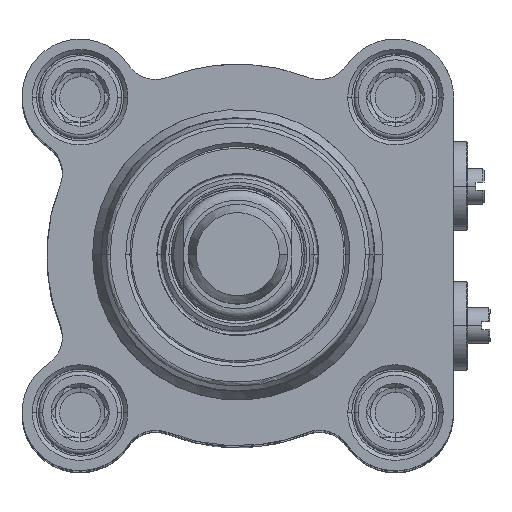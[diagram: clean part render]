
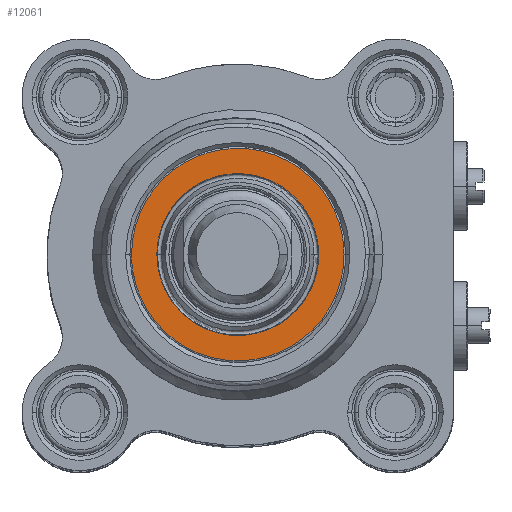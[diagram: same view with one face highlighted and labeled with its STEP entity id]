
A CAD part, top view. The second image highlights one B-rep face of the part: STEP entity #12061.
In plain terms, the highlighted planar face has unit normal (0, 0, 1).
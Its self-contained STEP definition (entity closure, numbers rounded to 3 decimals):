
#318 = CARTESIAN_POINT ( 'NONE',  ( -9.75, 0., 98.8 ) ) ;
#345 = CARTESIAN_POINT ( 'NONE',  ( 12.8, 0., 98.8 ) ) ;
#498 = CARTESIAN_POINT ( 'NONE',  ( -6.446, -11.184, 98.8 ) ) ;
#641 = CARTESIAN_POINT ( 'NONE',  ( -7.866, -10.236, 98.8 ) ) ;
#754 = CARTESIAN_POINT ( 'NONE',  ( 0., -12.8, 98.8 ) ) ;
#795 = CARTESIAN_POINT ( 'NONE',  ( 3.35, -12.467, 98.8 ) ) ;
#1059 = CARTESIAN_POINT ( 'NONE',  ( 12.8, 1.676, 98.8 ) ) ;
#1197 = CARTESIAN_POINT ( 'NONE',  ( 12.467, 3.35, 98.8 ) ) ;
#1348 = CARTESIAN_POINT ( 'NONE',  ( -12.467, 3.35, 98.8 ) ) ;
#1637 = CARTESIAN_POINT ( 'NONE',  ( 6.446, 11.184, 98.8 ) ) ;
#2171 = ORIENTED_EDGE ( 'NONE', *, *, #26730, .F. ) ;
#2415 = CARTESIAN_POINT ( 'NONE',  ( 9.496, -2.552, 98.8 ) ) ;
#2565 = CARTESIAN_POINT ( 'NONE',  ( -4.91, -8.519, 98.8 ) ) ;
#2607 = CARTESIAN_POINT ( 'NONE',  ( 5.992, 7.797, 98.8 ) ) ;
#2902 = CARTESIAN_POINT ( 'NONE',  ( -4.91, 8.519, 98.8 ) ) ;
#3165 = AXIS2_PLACEMENT_3D ( 'NONE', #754, #5701, #5547 ) ;
#3301 = B_SPLINE_CURVE_WITH_KNOTS ( 'NONE', 3,
 ( #25751, #14366, #5453, #4847, #5151, #2607, #20950, #9539, #18716, #14660, #23505, #2902, #16913, #12112, #21242, #23796, #28160, #21686 ),
 .UNSPECIFIED., .F., .F.,
 ( 4, 2, 2, 2, 2, 2, 2, 2, 4 ),
 ( 0.5, 0.563, 0.625, 0.688, 0.75, 0.813, 0.875, 0.938, 1. ),
 .UNSPECIFIED. ) ;
#3449 = CARTESIAN_POINT ( 'NONE',  ( -12.8, 1.676, 98.8 ) ) ;
#3455 = CARTESIAN_POINT ( 'NONE',  ( -12.8, 0., 98.8 ) ) ;
#3596 = CARTESIAN_POINT ( 'NONE',  ( -3.35, 12.467, 98.8 ) ) ;
#3854 = B_SPLINE_CURVE_WITH_KNOTS ( 'NONE', 3,
 ( #345, #23340, #25584, #6973, #7114, #14045, #23635, #795, #25439, #7564, #20787, #498, #641, #28148, #9526, #16753, #7413, #18700 ),
 .UNSPECIFIED., .F., .F.,
 ( 4, 2, 2, 2, 2, 2, 2, 2, 4 ),
 ( 0.5, 0.563, 0.625, 0.687, 0.75, 0.813, 0.875, 0.938, 1. ),
 .UNSPECIFIED. ) ;
#3954 = VERTEX_POINT ( 'NONE', #22420 ) ;
#4151 = EDGE_CURVE ( 'NONE', #14294, #3954, #21809, .T. ) ;
#4847 = CARTESIAN_POINT ( 'NONE',  ( 8.519, 4.91, 98.8 ) ) ;
#4954 = CARTESIAN_POINT ( 'NONE',  ( 1.276, -9.75, 98.8 ) ) ;
#5151 = CARTESIAN_POINT ( 'NONE',  ( 7.797, 5.992, 98.8 ) ) ;
#5261 = CARTESIAN_POINT ( 'NONE',  ( 2.552, -9.496, 98.8 ) ) ;
#5453 = CARTESIAN_POINT ( 'NONE',  ( 9.496, 2.552, 98.8 ) ) ;
#5547 = DIRECTION ( 'NONE',  ( 0., -1., 0. ) ) ;
#5701 = DIRECTION ( 'NONE',  ( 0., 0., -1. ) ) ;
#5713 = CARTESIAN_POINT ( 'NONE',  ( -11.184, 6.446, 98.8 ) ) ;
#6973 = CARTESIAN_POINT ( 'NONE',  ( 11.184, -6.446, 98.8 ) ) ;
#7114 = CARTESIAN_POINT ( 'NONE',  ( 10.236, -7.866, 98.8 ) ) ;
#7413 = CARTESIAN_POINT ( 'NONE',  ( -12.8, -1.676, 98.8 ) ) ;
#7564 = CARTESIAN_POINT ( 'NONE',  ( -1.676, -12.8, 98.8 ) ) ;
#7976 = CARTESIAN_POINT ( 'NONE',  ( 1.676, 12.8, 98.8 ) ) ;
#8123 = CARTESIAN_POINT ( 'NONE',  ( 12.8, 0., 98.8 ) ) ;
#8638 = FACE_OUTER_BOUND ( 'NONE', #15321, .T. ) ;
#9008 = ORIENTED_EDGE ( 'NONE', *, *, #23280, .F. ) ;
#9080 = PLANE ( 'NONE',  #3165 ) ;
#9253 = EDGE_LOOP ( 'NONE', ( #15366, #9008 ) ) ;
#9492 = CARTESIAN_POINT ( 'NONE',  ( -1.276, -9.75, 98.8 ) ) ;
#9526 = CARTESIAN_POINT ( 'NONE',  ( -11.184, -6.446, 98.8 ) ) ;
#9539 = CARTESIAN_POINT ( 'NONE',  ( 2.552, 9.496, 98.8 ) ) ;
#10665 = CARTESIAN_POINT ( 'NONE',  ( -10.236, 7.866, 98.8 ) ) ;
#11768 = CARTESIAN_POINT ( 'NONE',  ( -7.797, -5.992, 98.8 ) ) ;
#12061 = ADVANCED_FACE ( 'NONE', ( #8638, #17675 ), #9080, .F. ) ;
#12070 = CARTESIAN_POINT ( 'NONE',  ( -8.519, -4.91, 98.8 ) ) ;
#12112 = CARTESIAN_POINT ( 'NONE',  ( -7.797, 5.992, 98.8 ) ) ;
#12648 = CARTESIAN_POINT ( 'NONE',  ( -1.676, 12.8, 98.8 ) ) ;
#13871 = CARTESIAN_POINT ( 'NONE',  ( 9.75, -1.276, 98.8 ) ) ;
#14045 = CARTESIAN_POINT ( 'NONE',  ( 7.866, -10.236, 98.8 ) ) ;
#14294 = VERTEX_POINT ( 'NONE', #3455 ) ;
#14366 = CARTESIAN_POINT ( 'NONE',  ( 9.75, 1.276, 98.8 ) ) ;
#14463 = B_SPLINE_CURVE_WITH_KNOTS ( 'NONE', 3,
 ( #318, #21201, #23310, #12070, #11768, #20904, #2565, #23161, #9492, #4954, #5261, #19109, #16271, #28271, #25266, #2415, #13871, #14468 ),
 .UNSPECIFIED., .F., .F.,
 ( 4, 2, 2, 2, 2, 2, 2, 2, 4 ),
 ( 0., 0.062, 0.125, 0.188, 0.25, 0.313, 0.375, 0.438, 0.5 ),
 .UNSPECIFIED. ) ;
#14468 = CARTESIAN_POINT ( 'NONE',  ( 9.75, 0., 98.8 ) ) ;
#14660 = CARTESIAN_POINT ( 'NONE',  ( -1.276, 9.75, 98.8 ) ) ;
#14762 = CARTESIAN_POINT ( 'NONE',  ( 3.35, 12.467, 98.8 ) ) ;
#15049 = CARTESIAN_POINT ( 'NONE',  ( -7.866, 10.236, 98.8 ) ) ;
#15197 = CARTESIAN_POINT ( 'NONE',  ( -6.446, 11.184, 98.8 ) ) ;
#15321 = EDGE_LOOP ( 'NONE', ( #2171, #15548 ) ) ;
#15366 = ORIENTED_EDGE ( 'NONE', *, *, #22727, .F. ) ;
#15548 = ORIENTED_EDGE ( 'NONE', *, *, #4151, .F. ) ;
#16271 = CARTESIAN_POINT ( 'NONE',  ( 5.992, -7.797, 98.8 ) ) ;
#16753 = CARTESIAN_POINT ( 'NONE',  ( -12.467, -3.35, 98.8 ) ) ;
#16913 = CARTESIAN_POINT ( 'NONE',  ( -5.992, 7.797, 98.8 ) ) ;
#17675 = FACE_BOUND ( 'NONE', #9253, .T. ) ;
#18700 = CARTESIAN_POINT ( 'NONE',  ( -12.8, 0., 98.8 ) ) ;
#18716 = CARTESIAN_POINT ( 'NONE',  ( 1.276, 9.75, 98.8 ) ) ;
#19109 = CARTESIAN_POINT ( 'NONE',  ( 4.91, -8.519, 98.8 ) ) ;
#19399 = CARTESIAN_POINT ( 'NONE',  ( 7.866, 10.236, 98.8 ) ) ;
#19554 = CARTESIAN_POINT ( 'NONE',  ( -12.8, 0., 98.8 ) ) ;
#19843 = CARTESIAN_POINT ( 'NONE',  ( 10.236, 7.866, 98.8 ) ) ;
#19989 = CARTESIAN_POINT ( 'NONE',  ( 11.184, 6.446, 98.8 ) ) ;
#20787 = CARTESIAN_POINT ( 'NONE',  ( -3.35, -12.467, 98.8 ) ) ;
#20904 = CARTESIAN_POINT ( 'NONE',  ( -5.992, -7.797, 98.8 ) ) ;
#20950 = CARTESIAN_POINT ( 'NONE',  ( 4.91, 8.519, 98.8 ) ) ;
#21201 = CARTESIAN_POINT ( 'NONE',  ( -9.75, -1.276, 98.8 ) ) ;
#21242 = CARTESIAN_POINT ( 'NONE',  ( -8.519, 4.91, 98.8 ) ) ;
#21686 = CARTESIAN_POINT ( 'NONE',  ( -9.75, 0., 98.8 ) ) ;
#21809 = B_SPLINE_CURVE_WITH_KNOTS ( 'NONE', 3,
 ( #19554, #3449, #1348, #5713, #10665, #15049, #15197, #3596, #12648, #7976, #14762, #1637, #19399, #19843, #19989, #1197, #1059, #8123 ),
 .UNSPECIFIED., .F., .F.,
 ( 4, 2, 2, 2, 2, 2, 2, 2, 4 ),
 ( 0., 0.063, 0.125, 0.188, 0.25, 0.313, 0.375, 0.438, 0.5 ),
 .UNSPECIFIED. ) ;
#22420 = CARTESIAN_POINT ( 'NONE',  ( 12.8, 0., 98.8 ) ) ;
#22727 = EDGE_CURVE ( 'NONE', #29065, #26166, #14463, .T. ) ;
#23125 = CARTESIAN_POINT ( 'NONE',  ( -9.75, 0., 98.8 ) ) ;
#23161 = CARTESIAN_POINT ( 'NONE',  ( -2.552, -9.496, 98.8 ) ) ;
#23280 = EDGE_CURVE ( 'NONE', #26166, #29065, #3301, .T. ) ;
#23310 = CARTESIAN_POINT ( 'NONE',  ( -9.496, -2.552, 98.8 ) ) ;
#23340 = CARTESIAN_POINT ( 'NONE',  ( 12.8, -1.676, 98.8 ) ) ;
#23505 = CARTESIAN_POINT ( 'NONE',  ( -2.552, 9.496, 98.8 ) ) ;
#23635 = CARTESIAN_POINT ( 'NONE',  ( 6.446, -11.184, 98.8 ) ) ;
#23796 = CARTESIAN_POINT ( 'NONE',  ( -9.496, 2.552, 98.8 ) ) ;
#24659 = CARTESIAN_POINT ( 'NONE',  ( 9.75, 0., 98.8 ) ) ;
#25266 = CARTESIAN_POINT ( 'NONE',  ( 8.519, -4.91, 98.8 ) ) ;
#25439 = CARTESIAN_POINT ( 'NONE',  ( 1.676, -12.8, 98.8 ) ) ;
#25584 = CARTESIAN_POINT ( 'NONE',  ( 12.467, -3.35, 98.8 ) ) ;
#25751 = CARTESIAN_POINT ( 'NONE',  ( 9.75, 0., 98.8 ) ) ;
#26166 = VERTEX_POINT ( 'NONE', #24659 ) ;
#26730 = EDGE_CURVE ( 'NONE', #3954, #14294, #3854, .T. ) ;
#28148 = CARTESIAN_POINT ( 'NONE',  ( -10.236, -7.866, 98.8 ) ) ;
#28160 = CARTESIAN_POINT ( 'NONE',  ( -9.75, 1.276, 98.8 ) ) ;
#28271 = CARTESIAN_POINT ( 'NONE',  ( 7.797, -5.992, 98.8 ) ) ;
#29065 = VERTEX_POINT ( 'NONE', #23125 ) ;
